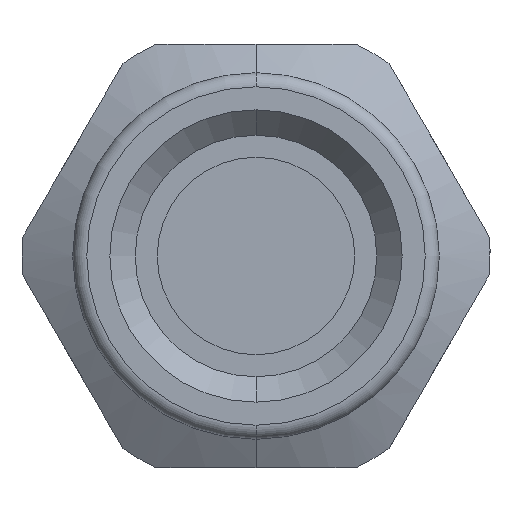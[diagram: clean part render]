
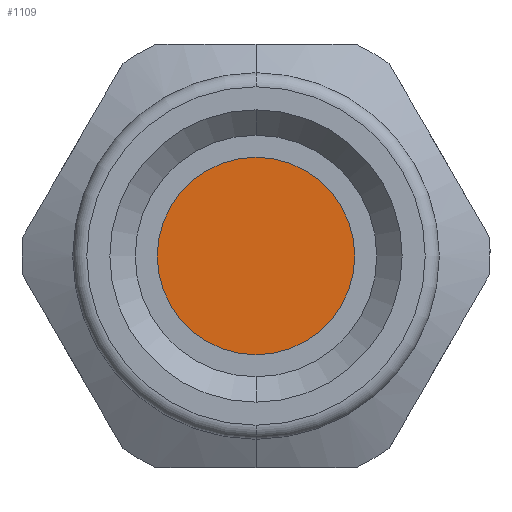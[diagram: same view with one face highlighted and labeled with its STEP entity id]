
A CAD part, front view. The second image highlights one B-rep face of the part: STEP entity #1109.
In plain terms, the highlighted planar face has unit normal (0, -1, 0).
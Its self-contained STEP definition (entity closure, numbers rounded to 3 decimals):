
#1109 = ADVANCED_FACE ( 'NONE', ( #4087 ), #1383, .T. ) ;
#1373 = DIRECTION ( 'NONE',  ( 1., 0., 0. ) ) ;
#1374 = DIRECTION ( 'NONE',  ( 0., -1., 0. ) ) ;
#1375 = CARTESIAN_POINT ( 'NONE',  ( 3.5, 9.654, 0. ) ) ;
#1383 = PLANE ( 'NONE',  #12497 ) ;
#2376 = CIRCLE ( 'NONE', #3449, 3.5 ) ;
#3449 = AXIS2_PLACEMENT_3D ( 'NONE', #14967, #14968, #14969 ) ;
#4087 = FACE_OUTER_BOUND ( 'NONE', #12896, .T. ) ;
#7499 = EDGE_CURVE ( 'NONE', #10533, #10536, #2376, .T. ) ;
#9306 = CARTESIAN_POINT ( 'NONE',  ( 0., 9.654, -3.5 ) ) ;
#9310 = CARTESIAN_POINT ( 'NONE',  ( 0., 9.654, 3.5 ) ) ;
#10048 = CARTESIAN_POINT ( 'NONE',  ( 0., 9.654, 0. ) ) ;
#10050 = DIRECTION ( 'NONE',  ( 0., -1., 0. ) ) ;
#10051 = DIRECTION ( 'NONE',  ( 0., 0., -1. ) ) ;
#10533 = VERTEX_POINT ( 'NONE', #9306 ) ;
#10536 = VERTEX_POINT ( 'NONE', #9310 ) ;
#10834 = CIRCLE ( 'NONE', #15512, 3.5 ) ;
#12407 = EDGE_CURVE ( 'NONE', #10536, #10533, #10834, .T. ) ;
#12497 = AXIS2_PLACEMENT_3D ( 'NONE', #1375, #1374, #1373 ) ;
#12809 = ORIENTED_EDGE ( 'NONE', *, *, #7499, .T. ) ;
#12810 = ORIENTED_EDGE ( 'NONE', *, *, #12407, .T. ) ;
#12896 = EDGE_LOOP ( 'NONE', ( #12809, #12810 ) ) ;
#14967 = CARTESIAN_POINT ( 'NONE',  ( 0., 9.654, 0. ) ) ;
#14968 = DIRECTION ( 'NONE',  ( 0., -1., 0. ) ) ;
#14969 = DIRECTION ( 'NONE',  ( 0., 0., -1. ) ) ;
#15512 = AXIS2_PLACEMENT_3D ( 'NONE', #10048, #10050, #10051 ) ;
